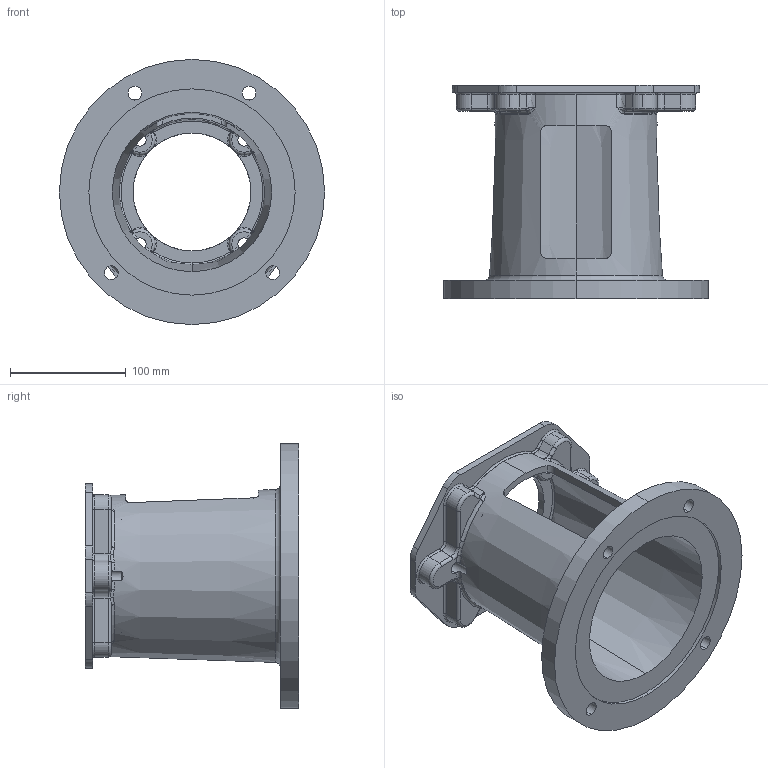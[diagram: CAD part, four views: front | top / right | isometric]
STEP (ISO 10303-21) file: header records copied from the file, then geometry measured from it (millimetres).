
FILE_DESCRIPTION (( 'STEP AP203' ), '1' );
FILE_NAME ('E700722B.STEP', '2014-11-04T13:30:32', ( '' ), ( '' ), 'SwSTEP 2.0', 'SolidWorks 2014', '' );
FILE_SCHEMA (( 'CONFIG_CONTROL_DESIGN' ));
Length unit declared in the file: inch
Products named in the file (1): E700722B
Bounding box: 228.6 x 184.15 x 228.6 mm (x, y, z)
Volume: 983156.4 mm3; surface area: 246891.8 mm2
Topology: 1 solids, 1 shells, 288 faces, 760 edges, 449 vertices
Faces by surface type: torus 87, cylinder 74, bspline 48, plane 43, cone 20, sphere 16
Entity records: 11461 total; most frequent: CARTESIAN_POINT 4608, ORIENTED_EDGE 1480, DIRECTION 1442, EDGE_CURVE 740, AXIS2_PLACEMENT_3D 649, VERTEX_POINT 449, CIRCLE 408, EDGE_LOOP 307
